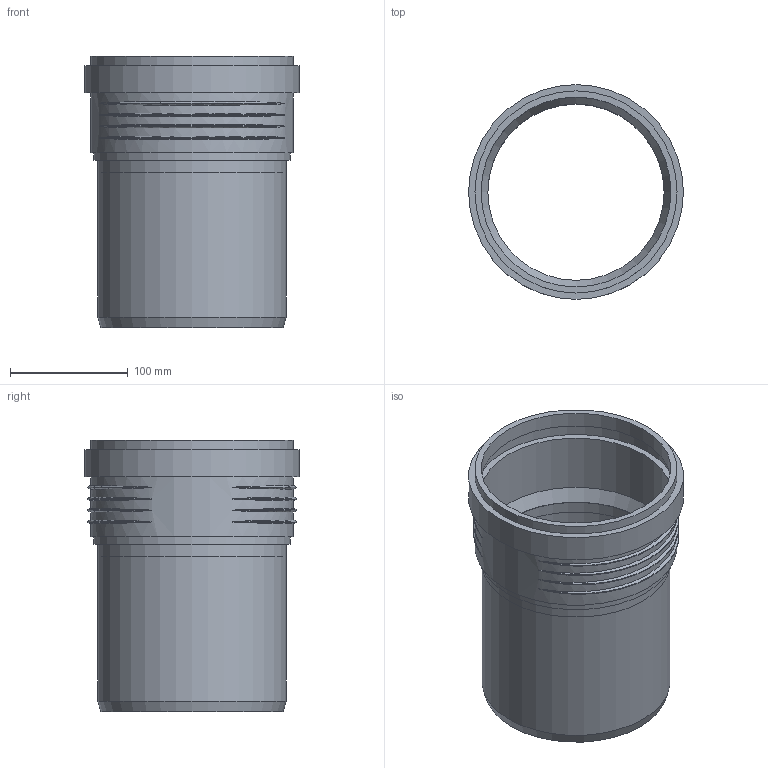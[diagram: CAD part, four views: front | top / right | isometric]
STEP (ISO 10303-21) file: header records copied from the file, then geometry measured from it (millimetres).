
FILE_DESCRIPTION(/* description */ (''),/* implementation_level */ '2;1');
FILE_NAME(/* name */ 'Z:\Geberit\Export\NewStep\390700.stp',/* time_stamp */ '2014-04-02T08:16:19+02:00',/* author */ ('ML'),/* organization */ (''),/* preprocessor_version */ 'ST-DEVELOPER v15.2',/* originating_system */ 'Autodesk Inventor 2014',/* authorisation */ '');
FILE_SCHEMA (('AUTOMOTIVE_DESIGN { 1 0 10303 214 3 1 1 }'));
Length unit declared in the file: millimetre
Products named in the file (3): 861673; 861587ohne; 390700
Bounding box: 182.6 x 182.6 x 230.6 mm (x, y, z)
Volume: 666212.5 mm3; surface area: 269752.4 mm2
Topology: 2 solids, 2 shells, 47 faces, 104 edges, 71 vertices
Faces by surface type: torus 24, cylinder 11, plane 10, cone 2
Full cylindrical faces by diameter (mm): 149.85 x2, 160.25 x2, 161.4 x2, 166.6 x1, 171.8 x2, 172.2 x1, 182.6 x1
Entity records: 2003 total; most frequent: CARTESIAN_POINT 962, DIRECTION 182, ORIENTED_EDGE 174, AXIS2_PLACEMENT_3D 91, EDGE_CURVE 87, EDGE_LOOP 78, VERTEX_POINT 71, STYLED_ITEM 49
